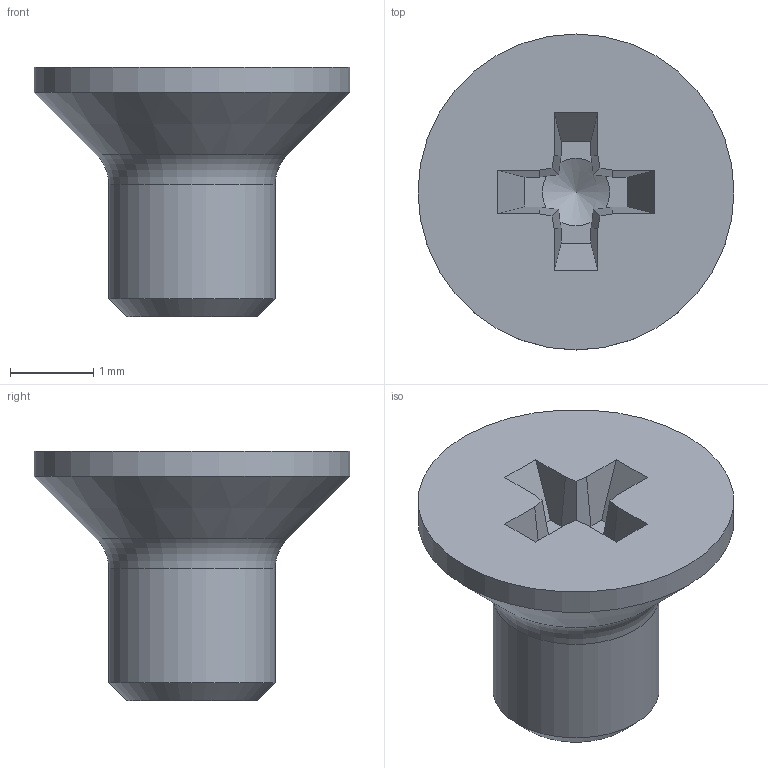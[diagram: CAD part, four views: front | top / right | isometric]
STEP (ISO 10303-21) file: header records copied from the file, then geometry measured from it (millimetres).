
FILE_DESCRIPTION(/* description */ ('STEP AP242 Edition 2','CAx-IF Rec.Pracs.---Representation and Presentation of Product Manufacturing Information (PMI)---4.0---2014-10-13','CAx-IF Rec.Pracs.---3D Tessellated Geometry---0.4---2014-09-14','2;1','CAx-IF Rec.Pracs.---User Defined Attributes---1.5---2016-08-15'),/* implementation_level */ '2;1');
FILE_NAME(/* name */ 'Tracker Assembly - PH Countersunk flat head screw M2x0.4 x 3',/* time_stamp */ '2026-10-25T15:06:36Z',/* author */ (''),/* organization */ (''),/* preprocessor_version */ 'ST-DEVELOPER v20',/* originating_system */ 'ONSHAPE BY PTC INC, 1.222',/* authorisation */ ' ');
FILE_SCHEMA (('AP242_MANAGED_MODEL_BASED_3D_ENGINEERING_MIM_LF { 1 0 10303 442 3 1 4 }'));
Length unit declared in the file: metre
Products named in the file (1): PH Countersunk flat head screw M2x0.4 x 3
Bounding box: 3.8 x 3.8 x 3 mm (x, y, z)
Volume: 14.2 mm3; surface area: 43.4 mm2
Topology: 1 solids, 1 shells, 32 faces, 87 edges, 57 vertices
Faces by surface type: plane 26, cone 3, cylinder 2, torus 1
Full cylindrical faces by diameter (mm): 2 x1, 3.8 x1
Entity records: 974 total; most frequent: CARTESIAN_POINT 190, ORIENTED_EDGE 156, DIRECTION 146, EDGE_CURVE 78, LINE 60, VECTOR 60, VERTEX_POINT 55, AXIS2_PLACEMENT_3D 43
